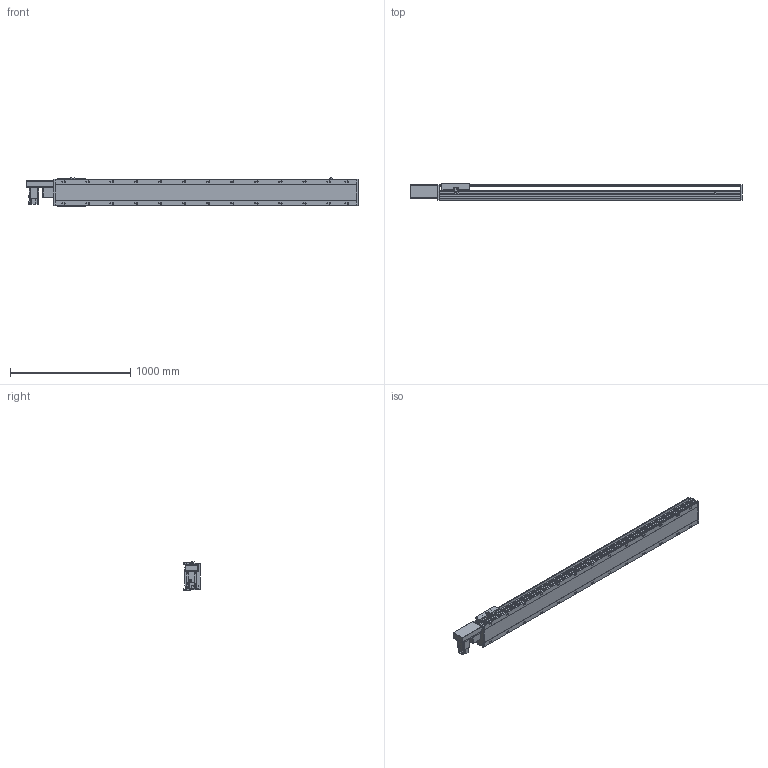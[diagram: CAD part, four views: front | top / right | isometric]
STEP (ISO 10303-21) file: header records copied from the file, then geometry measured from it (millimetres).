
FILE_DESCRIPTION(/* description */ ('STEP AP214'),/* implementation_level */ '2;1');
FILE_NAME(/* name */ 'PBS220-P40-S2150-R-T75-C1-N(0)',/* time_stamp */ '2022-06-11T10:02:25+02:00',/* author */ ('License CC BY-ND 4.0'),/* organization */ ('CADENAS'),/* preprocessor_version */ 'ST-DEVELOPER v18.102',/* originating_system */ 'PARTsolutions',/* authorisation */ ' ');
FILE_SCHEMA (('AUTOMOTIVE_DESIGN {1 0 10303 214 3 1 1}'));
Length unit declared in the file: millimetre
Products named in the file (7): PBS220-P40-S2150-R-T75-C1-N(0); PBS220_sensor; PBS220_plant; PBS220_sliser; T75-p1; PBS220T-R_motors; PBS220-S2150()_body
Assembly tree (8 placements, depth 2):
  PBS220-P40-S2150-R-T75-C1-N(0)
    PBS220_sensor  x3
    PBS220_plant
    PBS220_sliser
    T75-p1
    PBS220T-R_motors
    PBS220-S2150()_body
Bounding box: 2756 x 134 x 238.5 mm (x, y, z)
Volume: 36945898 mm3; surface area: 3417962.1 mm2
Topology: 8 solids, 8 shells, 974 faces, 2536 edges, 1648 vertices
Faces by surface type: plane 618, cylinder 306, cone 50
Full cylindrical faces by diameter (mm): 2.013 x4, 4.5 x14, 4.917 x4, 6 x7, 6.647 x8, 8 x10, 8.376 x26, 8.5 x26, 10 x6, 14 x26, 38 x2, 40 x1, 70 x1
Entity records: 27189 total; most frequent: CARTESIAN_POINT 4822, DIRECTION 4725, ORIENTED_EDGE 4286, EDGE_CURVE 2143, AXIS2_PLACEMENT_3D 1685, VERTEX_POINT 1496, LINE 1355, VECTOR 1355
